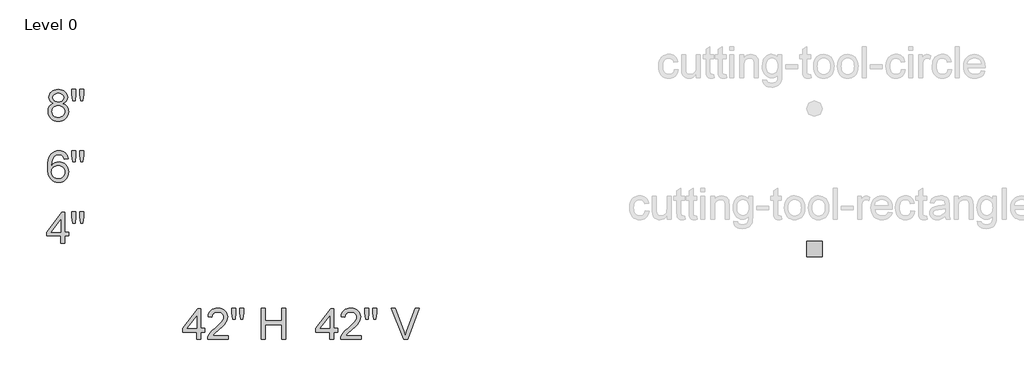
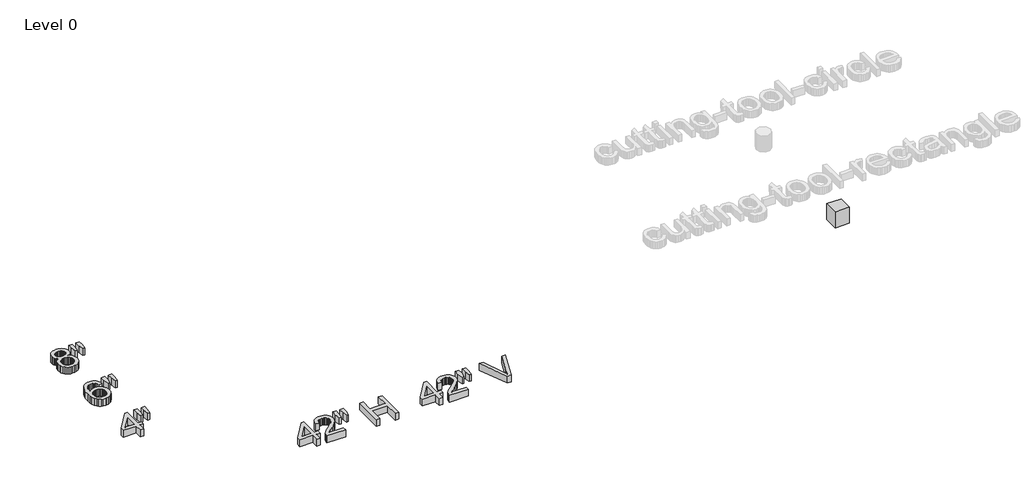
# One storey, part 1 of 3: 6 proxies.
"""IFC4 building model written with IfcOpenShell, lengths in millimetres."""

import ifcopenshell
import ifcopenshell.guid

model = None  # the IFC model being written
_history = None  # IfcOwnerHistory: only IFC2X3 demands one
_inside = {}  # id of a spatial element -> (the spatial element, [elements in it])
_under = {}  # id of a project, library or spatial element -> (it, [spatial elements below it])
_declared = {}  # id of a project -> (the project, [libraries it declares])
_typed = {}  # id of a type object -> (the type object, [elements of that type])
_made_of = {}  # id of a material, layer set ... -> (it, [elements and type objects made of it])


def new_model(schema):
    """Start an empty IFC model of exactly this schema.

    Asked for "IFC4X3", IfcOpenShell would pick the latest addendum, in which some entities
    have other attributes; the version numbers below select the first issue.
    IFC2X3 requires an IfcOwnerHistory on every rooted entity: one is made here for all.
    """
    global model, _history
    if schema == "IFC4X3":
        model = ifcopenshell.file(schema_version=(4, 3, 0, 0))
    else:
        model = ifcopenshell.file(schema=schema)
    _inside.clear()
    _under.clear()
    _declared.clear()
    _typed.clear()
    _made_of.clear()
    _history = None
    if model.schema == "IFC2X3":
        org = make("IfcOrganization", Name="unknown")
        user = make(
            "IfcPersonAndOrganization",
            ThePerson=make("IfcPerson", FamilyName="unknown"),
            TheOrganization=org,
        )
        app = make(
            "IfcApplication",
            ApplicationDeveloper=org,
            Version="unknown",
            ApplicationFullName="unknown",
            ApplicationIdentifier="unknown",
        )
        _history = make(
            "IfcOwnerHistory",
            OwningUser=user,
            OwningApplication=app,
            ChangeAction="ADDED",
            CreationDate=0,
        )
    return model


def make(cls, **values):
    """One entity of the class cls with the attributes given. An attribute that is None is left unset."""
    return model.create_entity(
        cls, **{name: value for name, value in values.items() if value is not None}
    )


def rooted(cls, **values):
    """An entity with a GlobalId (a new one), such as an element, a storey or a relation."""
    return make(cls, GlobalId=ifcopenshell.guid.new(), OwnerHistory=_history, **values)


def si_unit(unit_type, name, prefix=None):
    """IfcSIUnit, for example si_unit("LENGTHUNIT", "METRE", prefix="MILLI")."""
    return make("IfcSIUnit", UnitType=unit_type, Prefix=prefix, Name=name)


def assignment(units):
    """IfcUnitAssignment: the units of a project."""
    return None if units is None else make("IfcUnitAssignment", Units=units)


def point(xyz):
    """IfcCartesianPoint."""
    return None if xyz is None else make("IfcCartesianPoint", Coordinates=xyz)


def direction(xyz):
    """IfcDirection."""
    return None if xyz is None else make("IfcDirection", DirectionRatios=xyz)


def frame(location, z_axis=None, x_axis=None):
    """IfcAxis2Placement3D, a coordinate frame: its origin and axes. An axis left out is left unset."""
    return make(
        "IfcAxis2Placement3D",
        Location=point(location),
        Axis=direction(z_axis),
        RefDirection=direction(x_axis),
    )


def origin():
    """The frame at (0, 0, 0) with its axes left unset."""
    return frame((0.0, 0.0, 0.0))


def origin_with_axes():
    """The frame at (0, 0, 0) with the z axis (0, 0, 1) and the x axis (1, 0, 0) written out."""
    return frame((0.0, 0.0, 0.0), z_axis=(0.0, 0.0, 1.0), x_axis=(1.0, 0.0, 0.0))


def place(relative_to, where):
    """IfcLocalPlacement: puts the frame where relative to a parent placement (None: the world)."""
    return make(
        "IfcLocalPlacement", PlacementRelTo=relative_to, RelativePlacement=where
    )


def context(
    kind, dimensions, precision=None, world=None, true_north=None, identifier=None
):
    """IfcGeometricRepresentationContext, for example the 3D "Model" context."""
    return make(
        "IfcGeometricRepresentationContext",
        ContextIdentifier=identifier,
        ContextType=kind,
        CoordinateSpaceDimension=dimensions,
        Precision=precision,
        WorldCoordinateSystem=world,
        TrueNorth=true_north,
    )


def project(units=None, contexts=None):
    """IfcProject with its units and contexts."""
    return rooted(
        "IfcProject",
        Name="project",
        RepresentationContexts=contexts,
        UnitsInContext=assignment(units),
    )


def spatial(cls, under=None, at=None, **own):
    """A site, building, storey or space (cls), placed at a placement, below another one or the project."""
    s = rooted(cls, ObjectPlacement=at, **own)
    if under is not None:
        _under.setdefault(under.id(), (under, []))[1].append(s)
    return s


def polyline(points):
    """IfcPolyline through the points."""
    return make("IfcPolyline", Points=[point(p) for p in points])


def outline(outer, holes=None, kind="AREA"):
    """IfcArbitraryClosedProfileDef: a profile drawn as a closed curve; with holes, ...WithVoids."""
    if holes is None:
        return make("IfcArbitraryClosedProfileDef", ProfileType=kind, OuterCurve=outer)
    return make(
        "IfcArbitraryProfileDefWithVoids",
        ProfileType=kind,
        OuterCurve=outer,
        InnerCurves=holes,
    )


def extrude(swept, where, along, depth):
    """IfcExtrudedAreaSolid: the profile swept, set in the frame where, extruded along a direction by depth."""
    return make(
        "IfcExtrudedAreaSolid",
        SweptArea=swept,
        Position=where,
        ExtrudedDirection=direction(along),
        Depth=depth,
    )


def shape(context_of_items, identifier, shape_type, items):
    """IfcShapeRepresentation: the items that make up one representation, for example the "Body"."""
    return make(
        "IfcShapeRepresentation",
        ContextOfItems=context_of_items,
        RepresentationIdentifier=identifier,
        RepresentationType=shape_type,
        Items=items,
    )


def source(mapping_origin, context_of_items, identifier, shape_type, items):
    """IfcRepresentationMap: a shape defined once, which mapped items show again and again."""
    return make(
        "IfcRepresentationMap",
        MappingOrigin=mapping_origin,
        MappedRepresentation=shape(context_of_items, identifier, shape_type, items),
    )


def transform(
    local_origin,
    x_axis=None,
    y_axis=None,
    z_axis=None,
    scale=None,
    scale2=None,
    scale3=None,
    uniform=True,
):
    """IfcCartesianTransformationOperator3D, or its non-uniform kind. x_axis, y_axis, z_axis: its Axis1, 2, 3."""
    if uniform:
        return make(
            "IfcCartesianTransformationOperator3D",
            Axis1=direction(x_axis),
            Axis2=direction(y_axis),
            LocalOrigin=point(local_origin),
            Scale=scale,
            Axis3=direction(z_axis),
        )
    return make(
        "IfcCartesianTransformationOperator3DnonUniform",
        Axis1=direction(x_axis),
        Axis2=direction(y_axis),
        LocalOrigin=point(local_origin),
        Scale=scale,
        Axis3=direction(z_axis),
        Scale2=scale2,
        Scale3=scale3,
    )


def mapped(mapping_source, mapping_target):
    """IfcMappedItem: shows the shape of a source again, moved by a transform."""
    return make(
        "IfcMappedItem", MappingSource=mapping_source, MappingTarget=mapping_target
    )


def made_of(thing, what):
    """Note that an element or type object is made of a material, layer set ...; save() writes the relation."""
    if what is not None:
        _made_of.setdefault(what.id(), (what, []))[1].append(thing)
    return thing


def element(
    cls,
    number,
    at=None,
    inside=None,
    cuts=None,
    type_object=None,
    material=None,
    context=None,
    identifier="Body",
    shape_type=None,
    held_by="IfcProductDefinitionShape",
    body=None,
    shapes=None,
    **own,
):
    """One element of the class cls, such as IfcWall. Its Tag is "e" and its number.

    at: its placement. inside: the storey or other place that contains it. cuts: it is an
    opening in that element (IfcRelVoidsElement). A single representation is given by context,
    identifier, shape_type and body (its items); several are given by shapes. held_by: the class
    of the entity that holds the representations. save() writes the other relations.
    """
    e = rooted(cls, Tag="e%d" % number, ObjectPlacement=at, **own)
    if body is not None:
        shapes = [shape(context, identifier, shape_type, body)]
    if shapes is not None:
        e.Representation = make(held_by, Representations=shapes)
    if inside is not None:
        _inside.setdefault(inside.id(), (inside, []))[1].append(e)
    if cuts is not None:
        rooted(
            "IfcRelVoidsElement", RelatingBuildingElement=cuts, RelatedOpeningElement=e
        )
    if type_object is not None:
        _typed.setdefault(type_object.id(), (type_object, []))[1].append(e)
    return made_of(e, material)


def aggregate(whole, parts):
    """IfcRelAggregates: a whole, such as a stair, and the parts it consists of."""
    return rooted("IfcRelAggregates", RelatingObject=whole, RelatedObjects=parts)


def save(model, path):
    """Write the relations noted so far, then the file.

    IfcRelAggregates (storeys below a building ...), IfcRelContainedInSpatialStructure (elements
    in a storey), IfcRelDefinesByType, IfcRelAssociatesMaterial and IfcRelDeclares: one each for
    every whole, place, type object, material and project.
    """
    for whole, parts in _under.values():
        aggregate(whole, parts)
    for where, things in _inside.values():
        rooted(
            "IfcRelContainedInSpatialStructure",
            RelatedElements=things,
            RelatingStructure=where,
        )
    for kind, things in _typed.values():
        rooted("IfcRelDefinesByType", RelatedObjects=things, RelatingType=kind)
    for what, things in _made_of.values():
        rooted("IfcRelAssociatesMaterial", RelatedObjects=things, RelatingMaterial=what)
    for by, libraries in _declared.values():
        rooted("IfcRelDeclares", RelatingContext=by, RelatedDefinitions=libraries)
    model.write(path)


def kingspan_ks_cutting_tool_rectangle_cutting_tool_rectangle_f435e5aa(model_context):
    return source(origin(), model_context, "Body", "SweptSolid", [
        extrude(outline(polyline([(152.4, 152.4), (152.4, -152.4), (-152.4, -152.4), (-152.4, 152.4), (152.4, 152.4)])), frame((0.0, 0.0, -254.0), z_axis=(0.0, 0.0, 1.0), x_axis=(1.0, 0.0, 0.0)), (0.0, 0.0, 1.0), 355.6),
    ])


model = new_model("IFC4")

# Units and contexts
model_context = context("Model", 3, world=origin())
ifc_project = project(units=[si_unit("LENGTHUNIT", "METRE", prefix="MILLI")], contexts=[model_context])

# Site, building, storey
site = spatial("IfcSite", under=ifc_project)
building = spatial("IfcBuilding", under=site)
storey = spatial("IfcBuildingStorey", under=building, Name="Level 0", Elevation=0.0)

# Proxies
placement = place(None, origin())
element("IfcBuildingElementProxy", 1, Name="24\" Arial", ObjectType="24\" Arial", at=placement, inside=storey, context=model_context, shape_type="SweptSolid", body=[
    extrude(outline(polyline([(-11480.8304674, 9099.5393595), (-11480.8304674, 9242.3051848), (-11756.8443964, 9242.3051848), (-11756.8443964, 9318.4469584), (-11461.795024, 9699.1558259), (-11404.6886939, 9699.1558259), (-11404.6886939, 9318.4469584), (-11328.5469203, 9318.4469584), (-11328.5469203, 9242.3051848), (-11404.6886939, 9242.3051848), (-11404.6886939, 9099.5393595), (-11480.8304674, 9099.5393595)]), holes=[polyline([(-11480.8304674, 9318.4469584), (-11480.8304674, 9553.7131414), (-11663.1543235, 9318.4469584), (-11480.8304674, 9318.4469584)])]), origin_with_axes(), (0.0, 0.0, 1.0), 152.4),
    extrude(outline(polyline([(-11243.3335683, 9489.7659488), (-11261.9228685, 9607.3990403), (-11261.9228685, 9708.6735476), (-11185.781095, 9708.6735476), (-11185.781095, 9607.3990403), (-11202.437108, 9489.7659488), (-11243.3335683, 9489.7659488)])), origin_with_axes(), (0.0, 0.0, 1.0), 152.4),
    extrude(outline(polyline([(-11091.4961645, 9489.7659488), (-11109.6393215, 9607.3990403), (-11109.6393215, 9708.6735476), (-11033.497548, 9708.6735476), (-11033.497548, 9607.3990403), (-11051.3432761, 9489.7659488), (-11091.4961645, 9489.7659488)])), origin_with_axes(), (0.0, 0.0, 1.0), 152.4),
])
element("IfcBuildingElementProxy", 2, Name="24\" Arial", ObjectType="24\" Arial", at=placement, inside=storey, context=model_context, shape_type="SweptSolid", body=[
    extrude(outline(polyline([(-8830.6863907, 7226.0033745), (-8830.6863907, 7368.7691999), (-9106.7003197, 7368.7691999), (-9106.7003197, 7444.9109734), (-8811.6509473, 7825.619841), (-8754.5446171, 7825.619841), (-8754.5446171, 7444.9109734), (-8678.4028436, 7444.9109734), (-8678.4028436, 7368.7691999), (-8754.5446171, 7368.7691999), (-8754.5446171, 7226.0033745), (-8830.6863907, 7226.0033745)]), holes=[polyline([(-8830.6863907, 7444.9109734), (-8830.6863907, 7680.1771564), (-9013.0102468, 7444.9109734), (-8830.6863907, 7444.9109734)])]), origin_with_axes(), (0.0, 0.0, 1.0), 152.4),
    extrude(outline(polyline([(-8221.5522025, 7302.1451481), (-8221.5522025, 7226.0033745), (-8621.2965135, 7226.0033745), (-8619.6234765, 7252.8091454), (-8613.1172214, 7278.4995582), (-8594.3420282, 7319.5261437), (-8566.8670426, 7359.3258354), (-8527.1231188, 7400.9844571), (-8471.5411113, 7447.5878326), (-8389.3764045, 7520.5694251), (-8340.0775804, 7574.441217), (-8325.6987567, 7596.4509484), (-8315.4281684, 7618.163251), (-8309.2658154, 7639.5781248), (-8307.2116977, 7660.6955698), (-8309.1496323, 7680.5628844), (-8314.9634359, 7698.8222245), (-8324.6531086, 7715.4735901), (-8338.2186504, 7730.5169813), (-8354.9071946, 7742.9764597), (-8373.9658747, 7751.8760872), (-8395.3946904, 7757.2158637), (-8419.193642, 7758.9957892), (-8444.2659606, 7757.2576896), (-8466.6893039, 7752.0433909), (-8486.463672, 7743.3528931), (-8503.5890648, 7731.1861961), (-8517.4427407, 7715.9522646), (-8527.4019583, 7698.0600632), (-8533.4667175, 7677.5095918), (-8535.6370183, 7654.3008506), (-8611.7787918, 7663.8185723), (-8605.2307108, 7703.1256475), (-8593.3196167, 7737.4693796), (-8576.0455095, 7766.8497685), (-8553.4083892, 7791.2668143), (-8525.9287563, 7810.4602667), (-8494.127111, 7824.1698756), (-8458.0034534, 7832.3956409), (-8417.5577836, 7835.1375627), (-8376.7496224, 7832.0889174), (-8340.4307771, 7822.9429818), (-8308.6012479, 7807.6997556), (-8281.2610347, 7786.359239), (-8259.3024238, 7760.5015225), (-8243.6177018, 7731.7066965), (-8234.2068686, 7699.9747611), (-8231.0699242, 7665.3057163), (-8234.4531768, 7628.8892772), (-8244.6029347, 7593.1048744), (-8262.6159666, 7556.7070247), (-8289.5890412, 7518.4502449), (-8332.5860925, 7472.7763344), (-8398.6710546, 7414.1270923), (-8486.263837, 7340.8852496), (-8520.6168637, 7302.1451481), (-8221.5522025, 7302.1451481)])), origin_with_axes(), (0.0, 0.0, 1.0), 152.4),
    extrude(outline(polyline([(-8126.8211288, 7616.2299638), (-8145.410429, 7733.8630553), (-8145.410429, 7835.1375627), (-8069.2686555, 7835.1375627), (-8069.2686555, 7733.8630553), (-8085.9246684, 7616.2299638), (-8126.8211288, 7616.2299638)])), origin_with_axes(), (0.0, 0.0, 1.0), 152.4),
    extrude(outline(polyline([(-7974.983725, 7616.2299638), (-7993.126882, 7733.8630553), (-7993.126882, 7835.1375627), (-7916.9851084, 7835.1375627), (-7916.9851084, 7733.8630553), (-7934.8308366, 7616.2299638), (-7974.983725, 7616.2299638)])), origin_with_axes(), (0.0, 0.0, 1.0), 152.4),
    extrude(outline(polyline([(-7574.3471276, 7226.0033745), (-7574.3471276, 7835.1375627), (-7498.2053541, 7835.1375627), (-7498.2053541, 7587.6767987), (-7174.6028167, 7587.6767987), (-7174.6028167, 7835.1375627), (-7098.4610431, 7835.1375627), (-7098.4610431, 7226.0033745), (-7174.6028167, 7226.0033745), (-7174.6028167, 7511.5350252), (-7498.2053541, 7511.5350252), (-7498.2053541, 7226.0033745), (-7574.3471276, 7226.0033745)])), origin_with_axes(), (0.0, 0.0, 1.0), 152.4),
])
element("IfcBuildingElementProxy", 3, Name="24\" Arial", ObjectType="24\" Arial", at=placement, inside=storey, context=model_context, shape_type="SweptSolid", body=[
    extrude(outline(polyline([(-6239.8863907, 7226.0033745), (-6239.8863907, 7368.7691999), (-6515.9003197, 7368.7691999), (-6515.9003197, 7444.9109734), (-6220.8509473, 7825.619841), (-6163.7446171, 7825.619841), (-6163.7446171, 7444.9109734), (-6087.6028436, 7444.9109734), (-6087.6028436, 7368.7691999), (-6163.7446171, 7368.7691999), (-6163.7446171, 7226.0033745), (-6239.8863907, 7226.0033745)]), holes=[polyline([(-6239.8863907, 7444.9109734), (-6239.8863907, 7680.1771564), (-6422.2102468, 7444.9109734), (-6239.8863907, 7444.9109734)])]), origin_with_axes(), (0.0, 0.0, 1.0), 152.4),
    extrude(outline(polyline([(-5630.7522025, 7302.1451481), (-5630.7522025, 7226.0033745), (-6030.4965135, 7226.0033745), (-6028.8234765, 7252.8091454), (-6022.3172214, 7278.4995582), (-6003.5420282, 7319.5261437), (-5976.0670426, 7359.3258354), (-5936.3231188, 7400.9844571), (-5880.7411113, 7447.5878326), (-5798.5764045, 7520.5694251), (-5749.2775804, 7574.441217), (-5734.8987567, 7596.4509484), (-5724.6281684, 7618.163251), (-5718.4658154, 7639.5781248), (-5716.4116977, 7660.6955698), (-5718.3496323, 7680.5628844), (-5724.1634359, 7698.8222245), (-5733.8531086, 7715.4735901), (-5747.4186504, 7730.5169813), (-5764.1071946, 7742.9764597), (-5783.1658747, 7751.8760872), (-5804.5946904, 7757.2158637), (-5828.393642, 7758.9957892), (-5853.4659606, 7757.2576896), (-5875.8893039, 7752.0433909), (-5895.663672, 7743.3528931), (-5912.7890648, 7731.1861961), (-5926.6427407, 7715.9522646), (-5936.6019583, 7698.0600632), (-5942.6667175, 7677.5095918), (-5944.8370183, 7654.3008506), (-6020.9787918, 7663.8185723), (-6014.4307108, 7703.1256475), (-6002.5196167, 7737.4693796), (-5985.2455095, 7766.8497685), (-5962.6083892, 7791.2668143), (-5935.1287563, 7810.4602667), (-5903.327111, 7824.1698756), (-5867.2034534, 7832.3956409), (-5826.7577836, 7835.1375627), (-5785.9496224, 7832.0889174), (-5749.6307771, 7822.9429818), (-5717.8012479, 7807.6997556), (-5690.4610347, 7786.359239), (-5668.5024238, 7760.5015225), (-5652.8177018, 7731.7066965), (-5643.4068686, 7699.9747611), (-5640.2699242, 7665.3057163), (-5643.6531768, 7628.8892772), (-5653.8029347, 7593.1048744), (-5671.8159666, 7556.7070247), (-5698.7890412, 7518.4502449), (-5741.7860925, 7472.7763344), (-5807.8710546, 7414.1270923), (-5895.463837, 7340.8852496), (-5929.8168637, 7302.1451481), (-5630.7522025, 7302.1451481)])), origin_with_axes(), (0.0, 0.0, 1.0), 152.4),
    extrude(outline(polyline([(-5536.0211288, 7616.2299638), (-5554.610429, 7733.8630553), (-5554.610429, 7835.1375627), (-5478.4686555, 7835.1375627), (-5478.4686555, 7733.8630553), (-5495.1246684, 7616.2299638), (-5536.0211288, 7616.2299638)])), origin_with_axes(), (0.0, 0.0, 1.0), 152.4),
    extrude(outline(polyline([(-5384.183725, 7616.2299638), (-5402.326882, 7733.8630553), (-5402.326882, 7835.1375627), (-5326.1851084, 7835.1375627), (-5326.1851084, 7733.8630553), (-5344.0308366, 7616.2299638), (-5384.183725, 7616.2299638)])), origin_with_axes(), (0.0, 0.0, 1.0), 152.4),
    extrude(outline(polyline([(-4803.6027019, 7226.0033745), (-5046.0071762, 7835.1375627), (-4964.5116842, 7835.1375627), (-4802.2642723, 7396.2813641), (-4769.3983896, 7297.3862872), (-4736.9786501, 7396.2813641), (-4574.285095, 7835.1375627), (-4492.789603, 7835.1375627), (-4724.9327836, 7226.0033745), (-4803.6027019, 7226.0033745)])), origin_with_axes(), (0.0, 0.0, 1.0), 152.4),
])
element("IfcBuildingElementProxy", 4, Name="24\" Arial", ObjectType="24\" Arial", at=placement, inside=storey, context=model_context, shape_type="SweptSolid", body=[
    extrude(outline(polyline([(-11338.064642, 10741.6722789), (-11414.2064155, 10732.1545572), (-11426.4753537, 10769.8908366), (-11443.0570094, 10795.6556066), (-11459.4248882, 10809.5139299), (-11477.5959291, 10819.4127322), (-11497.5701322, 10825.3520136), (-11519.3474973, 10827.3317741), (-11554.7415249, 10822.7216277), (-11588.0535508, 10808.8911883), (-11616.6624838, 10779.761755), (-11640.0292341, 10739.6646345), (-11649.1612278, 10714.0904048), (-11655.8115499, 10682.9486797), (-11661.6671795, 10603.9627432), (-11631.1249593, 10639.5984316), (-11594.5226272, 10664.7125762), (-11553.9050064, 10679.6026056), (-11511.3169197, 10684.5659488), (-11474.7331769, 10681.1734015), (-11440.9750078, 10670.9957596), (-11410.0424123, 10654.0330232), (-11381.9353904, 10630.2851923), (-11358.5779348, 10601.1650535), (-11341.8940379, 10568.0853939), (-11331.8836997, 10531.0462133), (-11328.5469203, 10490.0475117), (-11330.1177162, 10462.2890393), (-11334.8301038, 10435.5250943), (-11342.6840831, 10409.755677), (-11353.6796542, 10384.9807872), (-11367.4264417, 10362.1252426), (-11383.5340703, 10342.1138609), (-11402.00254, 10324.9466422), (-11422.8318508, 10310.6235865), (-11445.5758596, 10299.3352339), (-11469.7884231, 10291.272125), (-11495.4695413, 10286.4342596), (-11522.6192142, 10284.8216378), (-11568.0096379, 10289.0971768), (-11609.0036921, 10301.923794), (-11645.6013768, 10323.3014892), (-11677.802692, 10353.2302625), (-11704.0554312, 10392.9741862), (-11722.8073878, 10443.7973329), (-11734.0585617, 10505.6997025), (-11737.808953, 10578.681295), (-11733.6449498, 10660.5020997), (-11721.15294, 10730.3328058), (-11700.3329238, 10788.1734133), (-11686.7999133, 10812.5974301), (-11671.1849012, 10834.0239222), (-11639.5923855, 10864.4081333), (-11602.9621695, 10886.1111413), (-11561.2942532, 10899.132946), (-11514.5886365, 10903.4735476), (-11479.5199217, 10900.7873938), (-11447.7786917, 10892.7289321), (-11419.3649463, 10879.2981628), (-11394.2786858, 10860.4950856), (-11373.1984194, 10836.951737), (-11356.8026566, 10809.3001529), (-11345.0913975, 10777.5403336), (-11338.064642, 10741.6722789)]), holes=[polyline([(-11661.6671795, 10491.237227), (-11657.2615153, 10457.4976471), (-11644.0445229, 10425.2823899), (-11623.5219355, 10397.5843327), (-11597.1994865, 10377.3963527), (-11565.4303725, 10365.0716467), (-11528.5677902, 10360.9634113), (-11502.1012741, 10363.0918862), (-11478.3209119, 10369.4773108), (-11457.2267035, 10380.1196852), (-11438.818649, 10395.0190092), (-11423.8867936, 10413.5711308), (-11413.2211826, 10435.1718976), (-11406.8218161, 10459.8213097), (-11404.6886939, 10487.5193669), (-11406.7939321, 10514.1345974), (-11413.1096468, 10537.7662453), (-11423.6358381, 10558.4143105), (-11438.3725058, 10576.078793), (-11456.8363282, 10590.2298977), (-11478.5439835, 10600.3378297), (-11503.4954716, 10606.4025889), (-11531.6907927, 10608.4241753), (-11557.8041121, 10606.4025889), (-11581.8633138, 10600.3378297), (-11603.8683979, 10590.2298977), (-11623.8193643, 10576.078793), (-11640.3777835, 10558.6466767), (-11652.2052257, 10538.6957103), (-11659.301691, 10516.2258937), (-11661.6671795, 10491.237227)])]), origin_with_axes(), (0.0, 0.0, 1.0), 152.4),
    extrude(outline(polyline([(-11243.3335683, 10684.5659488), (-11261.9228685, 10802.1990403), (-11261.9228685, 10903.4735476), (-11185.781095, 10903.4735476), (-11185.781095, 10802.1990403), (-11202.437108, 10684.5659488), (-11243.3335683, 10684.5659488)])), origin_with_axes(), (0.0, 0.0, 1.0), 152.4),
    extrude(outline(polyline([(-11091.4961645, 10684.5659488), (-11109.6393215, 10802.1990403), (-11109.6393215, 10903.4735476), (-11033.497548, 10903.4735476), (-11033.497548, 10802.1990403), (-11051.3432761, 10684.5659488), (-11091.4961645, 10684.5659488)])), origin_with_axes(), (0.0, 0.0, 1.0), 152.4),
])
element("IfcBuildingElementProxy", 5, Name="24\" Arial", ObjectType="24\" Arial", at=placement, inside=storey, context=model_context, shape_type="SweptSolid", body=[
    extrude(outline(polyline([(-11617.3502879, 11821.2374755), (-11658.1166231, 11841.3139197), (-11673.9407649, 11854.029001), (-11686.7255561, 11868.5286551), (-11696.5825325, 11884.6734623), (-11703.62323, 11902.3240029), (-11709.2557879, 11942.1422838), (-11706.1885534, 11973.1957098), (-11696.9868498, 12001.665223), (-11681.6506772, 12027.5508235), (-11660.1800355, 12050.8525113), (-11633.6066309, 12070.1110262), (-11602.9621695, 12083.8671084), (-11568.2466515, 12092.1207576), (-11529.4600766, 12094.8719741), (-11490.4876088, 12092.0556951), (-11455.5118405, 12083.6068582), (-11424.5327718, 12069.5254633), (-11397.5504026, 12049.8115104), (-11375.6893856, 12026.0543848), (-11360.0743734, 11999.8434716), (-11350.7053662, 11971.1787707), (-11347.5823637, 11940.0602822), (-11353.1405645, 11901.5246629), (-11369.8151667, 11868.3055835), (-11382.3675917, 11853.9035232), (-11397.7920635, 11841.2581518), (-11437.2571478, 11821.2374755), (-11412.2313024, 11810.5904538), (-11390.393522, 11797.0899746), (-11371.7438066, 11780.7360377), (-11356.2821562, 11761.5286433), (-11344.1479905, 11739.8953452), (-11335.4807293, 11716.2636974), (-11330.2803726, 11690.6336998), (-11328.5469203, 11663.0053524), (-11331.9859409, 11625.0274121), (-11342.3030025, 11590.2096529), (-11359.4981051, 11558.5520747), (-11383.5712489, 11530.0546775), (-11413.2583612, 11506.5020342), (-11447.2953699, 11489.6787176), (-11485.6822747, 11479.5847276), (-11528.4190758, 11476.2200642), (-11571.1558769, 11479.5986695), (-11609.5427818, 11489.7344855), (-11643.5797904, 11506.627512), (-11673.2669028, 11530.2777491), (-11697.3400465, 11558.9749813), (-11714.5351492, 11591.0089928), (-11724.8522108, 11626.3797837), (-11728.2912313, 11665.087354), (-11726.4880692, 11693.9751265), (-11721.0785828, 11720.4091113), (-11712.0627723, 11744.3893086), (-11699.4406374, 11765.9157182), (-11683.4910179, 11784.5979648), (-11664.4927531, 11800.0456733), (-11642.4458431, 11812.2588435), (-11617.3502879, 11821.2374755)]), holes=[polyline([(-11633.1140144, 11939.9115678), (-11631.4270354, 11922.4562149), (-11626.3660984, 11906.6738991), (-11617.9312035, 11892.5646203), (-11606.1223506, 11880.1283784), (-11591.088254, 11869.9786205), (-11572.9776283, 11862.7287935), (-11551.7904735, 11858.3788972), (-11527.5267894, 11856.9289318), (-11503.8626103, 11858.3696026), (-11483.1355406, 11862.6916149), (-11465.3455803, 11869.8949687), (-11450.4927295, 11879.979664), (-11438.7814704, 11892.1556557), (-11430.4162853, 11905.6328983), (-11425.3971743, 11920.4113919), (-11423.7241372, 11936.4911366), (-11425.4529422, 11953.1982701), (-11430.6393569, 11968.5205008), (-11439.2833815, 11982.4578286), (-11451.3850159, 11995.0102535), (-11466.5724741, 12005.3877303), (-11484.4739702, 12012.8002138), (-11505.0895041, 12017.2477039), (-11528.4190758, 12018.7302005), (-11551.9298932, 12017.2802351), (-11572.6430209, 12012.9303389), (-11590.558459, 12005.6805118), (-11605.6762074, 11995.5307539), (-11617.6802479, 11983.3547623), (-11626.2545626, 11970.0262341), (-11631.3991515, 11955.5451693), (-11633.1140144, 11939.9115678)]), polyline([(-11652.1494578, 11667.7642132), (-11648.9706875, 11638.6347799), (-11639.4343765, 11610.4348115), (-11621.8303092, 11585.8411674), (-11594.44827, 11567.5307067), (-11561.6567445, 11556.154055), (-11527.8242182, 11552.3618378), (-11500.2934647, 11554.3555402), (-11475.9972493, 11560.3366475), (-11454.9355722, 11570.3051598), (-11437.1084334, 11584.2610769), (-11422.9247973, 11601.2935231), (-11412.7936287, 11620.4916229), (-11406.7149276, 11641.8553761), (-11404.6886939, 11665.3847828), (-11406.7799901, 11689.2906228), (-11413.0538789, 11711.0401041), (-11423.5103603, 11730.6332264), (-11438.1494342, 11748.06999), (-11456.4598948, 11762.3837511), (-11477.9305365, 11772.6078662), (-11502.5613593, 11778.7423353), (-11530.352363, 11780.7871583), (-11557.4787993, 11778.7702192), (-11581.4543492, 11772.719402), (-11602.2790127, 11762.6347067), (-11619.9527899, 11748.5161332), (-11634.0388321, 11731.3675038), (-11644.1002908, 11712.1926407), (-11650.137166, 11690.9915438), (-11652.1494578, 11667.7642132)])]), origin_with_axes(), (0.0, 0.0, 1.0), 152.4),
    extrude(outline(polyline([(-11243.3335683, 11875.9643752), (-11261.9228685, 11993.5974667), (-11261.9228685, 12094.8719741), (-11185.781095, 12094.8719741), (-11185.781095, 11993.5974667), (-11202.437108, 11875.9643752), (-11243.3335683, 11875.9643752)])), origin_with_axes(), (0.0, 0.0, 1.0), 152.4),
    extrude(outline(polyline([(-11091.4961645, 11875.9643752), (-11109.6393215, 11993.5974667), (-11109.6393215, 12094.8719741), (-11033.497548, 12094.8719741), (-11033.497548, 11993.5974667), (-11051.3432761, 11875.9643752), (-11091.4961645, 11875.9643752)])), origin_with_axes(), (0.0, 0.0, 1.0), 152.4),
])
kingspan_ks_cutting_tool_rectangle_cutting_tool_rectangle_shape = kingspan_ks_cutting_tool_rectangle_cutting_tool_rectangle_f435e5aa(model_context)
element("IfcBuildingElementProxy", 6, Name="kingspan-ks-cutting-tool-rectangle : cutting-tool-rectangle", ObjectType="kingspan-ks-cutting-tool-rectangle : cutting-tool-rectangle", at=placement, inside=storey, context=model_context, shape_type="MappedRepresentation", body=[
    mapped(kingspan_ks_cutting_tool_rectangle_cutting_tool_rectangle_shape, transform((3201.1199169, 8986.3088981, 0.0), x_axis=(1.0, 0.0, 0.0), y_axis=(0.0, 1.0, 0.0), z_axis=(0.0, 0.0, 1.0))),
])

save(model, "model.ifc")
